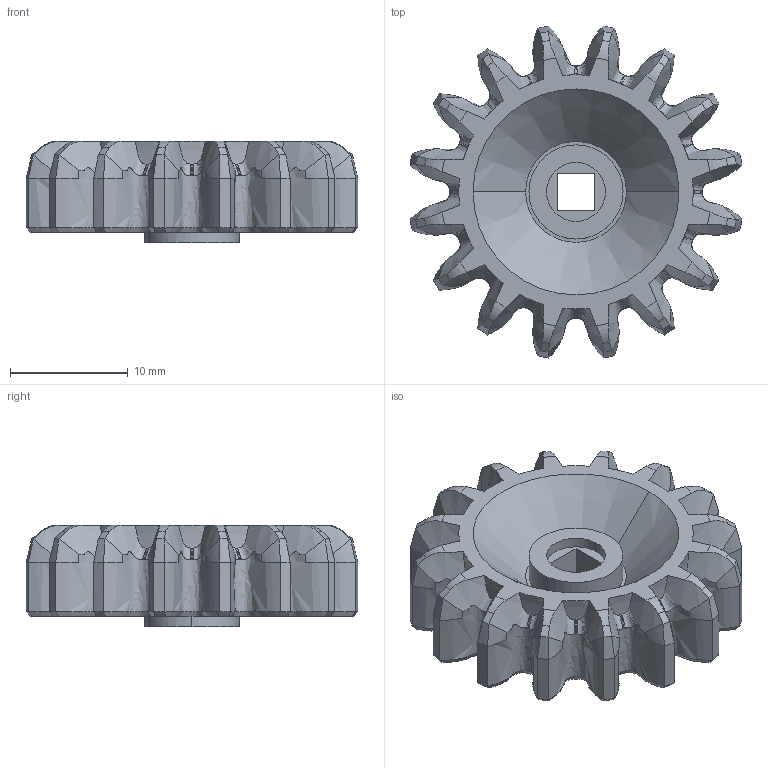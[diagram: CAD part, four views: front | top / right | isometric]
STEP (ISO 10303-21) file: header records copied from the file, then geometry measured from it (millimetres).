
FILE_DESCRIPTION (( 'STEP AP214' ), '1' );
FILE_NAME ('228-2500-2181.STEP', '2021-02-18T20:20:59', ( '' ), ( '' ), 'SwSTEP 2.0', 'SolidWorks 2019', '' );
FILE_SCHEMA (( 'AUTOMOTIVE_DESIGN' ));
Length unit declared in the file: millimetre
Products named in the file (1): 228-2500-2181
Bounding box: 28.2 x 28.2 x 8.64 mm (x, y, z)
Volume: 2436.4 mm3; surface area: 2936.5 mm2
Topology: 1 solids, 1 shells, 334 faces, 925 edges, 598 vertices
Faces by surface type: bspline 184, plane 51, cone 42, cylinder 41, torus 16
Entity records: 42574 total; most frequent: CARTESIAN_POINT 35728, ORIENTED_EDGE 1850, EDGE_CURVE 925, DIRECTION 718, B_SPLINE_CURVE_WITH_KNOTS 634, VERTEX_POINT 598, EDGE_LOOP 341, ADVANCED_FACE 334
